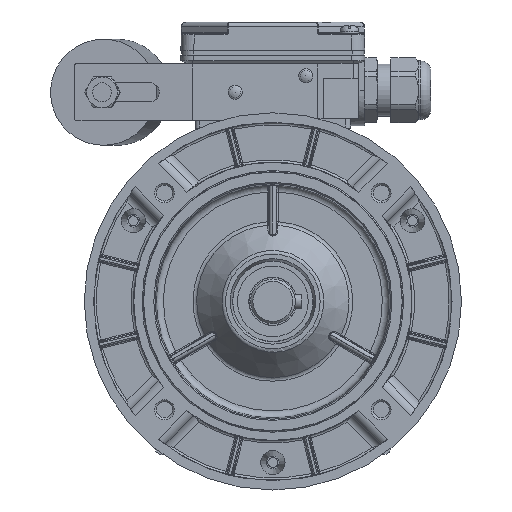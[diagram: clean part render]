
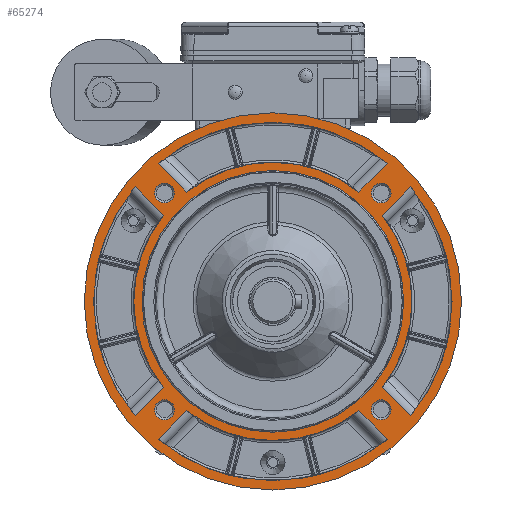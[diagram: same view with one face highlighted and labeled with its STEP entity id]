
A CAD part, left-side view. The second image highlights one B-rep face of the part: STEP entity #65274.
In plain terms, the highlighted planar face has unit normal (-1, 0, 0).
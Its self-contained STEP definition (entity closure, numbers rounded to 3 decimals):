
#3297=LINE('',#96282,#6449);
#3298=LINE('',#96287,#6450);
#3299=LINE('',#96293,#6451);
#3300=LINE('',#96297,#6452);
#3301=LINE('',#96298,#6453);
#3302=LINE('',#96303,#6454);
#3303=LINE('',#96306,#6455);
#3304=LINE('',#96311,#6456);
#6449=VECTOR('',#75695,1000.);
#6450=VECTOR('',#75698,1000.);
#6451=VECTOR('',#75703,1000.);
#6452=VECTOR('',#75706,1000.);
#6453=VECTOR('',#75707,1000.);
#6454=VECTOR('',#75710,1000.);
#6455=VECTOR('',#75713,1000.);
#6456=VECTOR('',#75716,1000.);
#9230=PLANE('',#68662);
#14576=ORIENTED_EDGE('',*,*,#26657,.T.);
#14577=ORIENTED_EDGE('',*,*,#26658,.T.);
#14578=ORIENTED_EDGE('',*,*,#26659,.T.);
#14579=ORIENTED_EDGE('',*,*,#26660,.T.);
#14580=ORIENTED_EDGE('',*,*,#26661,.T.);
#14581=ORIENTED_EDGE('',*,*,#26635,.T.);
#14582=ORIENTED_EDGE('',*,*,#26662,.T.);
#14583=ORIENTED_EDGE('',*,*,#26663,.T.);
#14584=ORIENTED_EDGE('',*,*,#26664,.F.);
#14585=ORIENTED_EDGE('',*,*,#26665,.F.);
#14586=ORIENTED_EDGE('',*,*,#26666,.T.);
#14587=ORIENTED_EDGE('',*,*,#26667,.F.);
#14588=ORIENTED_EDGE('',*,*,#26668,.F.);
#14589=ORIENTED_EDGE('',*,*,#26669,.T.);
#14590=ORIENTED_EDGE('',*,*,#26670,.T.);
#14591=ORIENTED_EDGE('',*,*,#26671,.T.);
#14592=ORIENTED_EDGE('',*,*,#26672,.F.);
#14593=ORIENTED_EDGE('',*,*,#26673,.F.);
#14594=ORIENTED_EDGE('',*,*,#26674,.T.);
#14595=ORIENTED_EDGE('',*,*,#26675,.T.);
#14596=ORIENTED_EDGE('',*,*,#26676,.F.);
#14597=ORIENTED_EDGE('',*,*,#26677,.F.);
#26635=EDGE_CURVE('',#33037,#33037,#36918,.T.);
#26657=EDGE_CURVE('',#33043,#33043,#36934,.F.);
#26658=EDGE_CURVE('',#33044,#33044,#36935,.F.);
#26659=EDGE_CURVE('',#33045,#33045,#36936,.F.);
#26660=EDGE_CURVE('',#33046,#33046,#36937,.F.);
#26661=EDGE_CURVE('',#33047,#33047,#36938,.F.);
#26662=EDGE_CURVE('',#33048,#33049,#3297,.T.);
#26663=EDGE_CURVE('',#33049,#33050,#36939,.T.);
#26664=EDGE_CURVE('',#33051,#33050,#3298,.T.);
#26665=EDGE_CURVE('',#33048,#33051,#36940,.T.);
#26666=EDGE_CURVE('',#33052,#33053,#36941,.T.);
#26667=EDGE_CURVE('',#33054,#33053,#3299,.T.);
#26668=EDGE_CURVE('',#33055,#33054,#36942,.T.);
#26669=EDGE_CURVE('',#33055,#33052,#3300,.T.);
#26670=EDGE_CURVE('',#33056,#33057,#3301,.T.);
#26671=EDGE_CURVE('',#33057,#33058,#36943,.T.);
#26672=EDGE_CURVE('',#33059,#33058,#3302,.T.);
#26673=EDGE_CURVE('',#33056,#33059,#36944,.T.);
#26674=EDGE_CURVE('',#33060,#33061,#3303,.T.);
#26675=EDGE_CURVE('',#33061,#33062,#36945,.T.);
#26676=EDGE_CURVE('',#33063,#33062,#3304,.T.);
#26677=EDGE_CURVE('',#33060,#33063,#36946,.T.);
#33037=VERTEX_POINT('',#96211);
#33043=VERTEX_POINT('',#96273);
#33044=VERTEX_POINT('',#96275);
#33045=VERTEX_POINT('',#96277);
#33046=VERTEX_POINT('',#96279);
#33047=VERTEX_POINT('',#96281);
#33048=VERTEX_POINT('',#96283);
#33049=VERTEX_POINT('',#96284);
#33050=VERTEX_POINT('',#96286);
#33051=VERTEX_POINT('',#96288);
#33052=VERTEX_POINT('',#96291);
#33053=VERTEX_POINT('',#96292);
#33054=VERTEX_POINT('',#96294);
#33055=VERTEX_POINT('',#96296);
#33056=VERTEX_POINT('',#96299);
#33057=VERTEX_POINT('',#96300);
#33058=VERTEX_POINT('',#96302);
#33059=VERTEX_POINT('',#96304);
#33060=VERTEX_POINT('',#96307);
#33061=VERTEX_POINT('',#96308);
#33062=VERTEX_POINT('',#96310);
#33063=VERTEX_POINT('',#96312);
#36918=CIRCLE('',#68625,80.);
#36934=CIRCLE('',#68663,55.5);
#36935=CIRCLE('',#68664,4.2);
#36936=CIRCLE('',#68665,4.2);
#36937=CIRCLE('',#68666,4.2);
#36938=CIRCLE('',#68667,4.2);
#36939=CIRCLE('',#68668,59.);
#36940=CIRCLE('',#68669,76.);
#36941=CIRCLE('',#68670,59.);
#36942=CIRCLE('',#68671,76.);
#36943=CIRCLE('',#68672,59.);
#36944=CIRCLE('',#68673,76.);
#36945=CIRCLE('',#68674,59.);
#36946=CIRCLE('',#68675,76.);
#39387=EDGE_LOOP('',(#14576));
#39388=EDGE_LOOP('',(#14577));
#39389=EDGE_LOOP('',(#14578));
#39390=EDGE_LOOP('',(#14579));
#39391=EDGE_LOOP('',(#14580));
#39392=EDGE_LOOP('',(#14581));
#39393=EDGE_LOOP('',(#14582,#14583,#14584,#14585));
#39394=EDGE_LOOP('',(#14586,#14587,#14588,#14589));
#39395=EDGE_LOOP('',(#14590,#14591,#14592,#14593));
#39396=EDGE_LOOP('',(#14594,#14595,#14596,#14597));
#42608=FACE_BOUND('',#39387,.T.);
#42609=FACE_BOUND('',#39388,.T.);
#42610=FACE_BOUND('',#39389,.T.);
#42611=FACE_BOUND('',#39390,.T.);
#42612=FACE_BOUND('',#39391,.T.);
#42613=FACE_BOUND('',#39392,.T.);
#42614=FACE_BOUND('',#39393,.T.);
#42615=FACE_BOUND('',#39394,.T.);
#42616=FACE_BOUND('',#39395,.T.);
#42617=FACE_BOUND('',#39396,.T.);
#65274=ADVANCED_FACE('',(#42608,#42609,#42610,#42611,#42612,#42613,#42614,
#42615,#42616,#42617),#9230,.T.);
#68625=AXIS2_PLACEMENT_3D('',#96210,#75605,#75606);
#68662=AXIS2_PLACEMENT_3D('',#96271,#75683,#75684);
#68663=AXIS2_PLACEMENT_3D('',#96272,#75685,#75686);
#68664=AXIS2_PLACEMENT_3D('',#96274,#75687,#75688);
#68665=AXIS2_PLACEMENT_3D('',#96276,#75689,#75690);
#68666=AXIS2_PLACEMENT_3D('',#96278,#75691,#75692);
#68667=AXIS2_PLACEMENT_3D('',#96280,#75693,#75694);
#68668=AXIS2_PLACEMENT_3D('',#96285,#75696,#75697);
#68669=AXIS2_PLACEMENT_3D('',#96289,#75699,#75700);
#68670=AXIS2_PLACEMENT_3D('',#96290,#75701,#75702);
#68671=AXIS2_PLACEMENT_3D('',#96295,#75704,#75705);
#68672=AXIS2_PLACEMENT_3D('',#96301,#75708,#75709);
#68673=AXIS2_PLACEMENT_3D('',#96305,#75711,#75712);
#68674=AXIS2_PLACEMENT_3D('',#96309,#75714,#75715);
#68675=AXIS2_PLACEMENT_3D('',#96313,#75717,#75718);
#75605=DIRECTION('',(-1.,0.,0.));
#75606=DIRECTION('',(0.,1.,0.));
#75683=DIRECTION('',(-1.,0.,0.));
#75684=DIRECTION('',(0.,-1.,0.));
#75685=DIRECTION('',(-1.,0.,0.));
#75686=DIRECTION('',(0.,-1.,0.));
#75687=DIRECTION('',(-1.,0.,0.));
#75688=DIRECTION('',(0.,-1.,0.));
#75689=DIRECTION('',(-1.,0.,0.));
#75690=DIRECTION('',(0.,-1.,0.));
#75691=DIRECTION('',(-1.,0.,0.));
#75692=DIRECTION('',(0.,-1.,0.));
#75693=DIRECTION('',(-1.,0.,0.));
#75694=DIRECTION('',(0.,-1.,0.));
#75695=DIRECTION('',(0.,0.707,0.707));
#75696=DIRECTION('',(-1.,0.,0.));
#75697=DIRECTION('',(0.,0.,1.));
#75698=DIRECTION('',(0.,0.707,-0.707));
#75699=DIRECTION('',(-1.,0.,0.));
#75700=DIRECTION('',(0.,0.,1.));
#75701=DIRECTION('',(-1.,0.,0.));
#75702=DIRECTION('',(0.,0.,1.));
#75703=DIRECTION('',(0.,0.707,0.707));
#75704=DIRECTION('',(-1.,0.,0.));
#75705=DIRECTION('',(0.,0.,1.));
#75706=DIRECTION('',(0.,-0.707,0.707));
#75707=DIRECTION('',(0.,0.707,-0.707));
#75708=DIRECTION('',(-1.,0.,0.));
#75709=DIRECTION('',(0.,0.,1.));
#75710=DIRECTION('',(0.,-0.707,-0.707));
#75711=DIRECTION('',(-1.,0.,0.));
#75712=DIRECTION('',(0.,0.,1.));
#75713=DIRECTION('',(0.,-0.707,-0.707));
#75714=DIRECTION('',(-1.,0.,0.));
#75715=DIRECTION('',(0.,0.,1.));
#75716=DIRECTION('',(0.,-0.707,0.707));
#75717=DIRECTION('',(-1.,0.,0.));
#75718=DIRECTION('',(0.,0.,1.));
#96210=CARTESIAN_POINT('',(-44.8,0.,0.));
#96211=CARTESIAN_POINT('',(-44.8,80.,0.));
#96271=CARTESIAN_POINT('',(-44.8,0.,0.));
#96272=CARTESIAN_POINT('',(-44.8,0.,0.));
#96273=CARTESIAN_POINT('',(-44.8,-55.5,0.));
#96274=CARTESIAN_POINT('',(-44.8,-45.962,-45.962));
#96275=CARTESIAN_POINT('',(-44.8,-50.162,-45.962));
#96276=CARTESIAN_POINT('',(-44.8,-45.962,45.962));
#96277=CARTESIAN_POINT('',(-44.8,-50.162,45.962));
#96278=CARTESIAN_POINT('',(-44.8,45.962,45.962));
#96279=CARTESIAN_POINT('',(-44.8,41.762,45.962));
#96280=CARTESIAN_POINT('',(-44.8,45.962,-45.962));
#96281=CARTESIAN_POINT('',(-44.8,41.762,-45.962));
#96282=CARTESIAN_POINT('',(-44.8,-70.057,-60.157));
#96283=CARTESIAN_POINT('',(-44.8,-58.461,-48.562));
#96284=CARTESIAN_POINT('',(-44.8,-46.374,-36.475));
#96285=CARTESIAN_POINT('',(-44.8,0.,0.));
#96286=CARTESIAN_POINT('',(-44.8,-46.374,36.475));
#96287=CARTESIAN_POINT('',(-44.8,-70.057,60.157));
#96288=CARTESIAN_POINT('',(-44.8,-58.461,48.562));
#96289=CARTESIAN_POINT('',(-44.8,0.,0.));
#96290=CARTESIAN_POINT('',(-44.8,0.,0.));
#96291=CARTESIAN_POINT('',(-44.8,36.475,-46.374));
#96292=CARTESIAN_POINT('',(-44.8,-36.475,-46.374));
#96293=CARTESIAN_POINT('',(-44.8,-60.157,-70.057));
#96294=CARTESIAN_POINT('',(-44.8,-48.562,-58.461));
#96295=CARTESIAN_POINT('',(-44.8,0.,0.));
#96296=CARTESIAN_POINT('',(-44.8,48.562,-58.461));
#96297=CARTESIAN_POINT('',(-44.8,60.157,-70.057));
#96298=CARTESIAN_POINT('',(-44.8,-60.157,70.057));
#96299=CARTESIAN_POINT('',(-44.8,-48.562,58.461));
#96300=CARTESIAN_POINT('',(-44.8,-36.475,46.374));
#96301=CARTESIAN_POINT('',(-44.8,0.,0.));
#96302=CARTESIAN_POINT('',(-44.8,36.475,46.374));
#96303=CARTESIAN_POINT('',(-44.8,60.157,70.057));
#96304=CARTESIAN_POINT('',(-44.8,48.562,58.461));
#96305=CARTESIAN_POINT('',(-44.8,0.,0.));
#96306=CARTESIAN_POINT('',(-44.8,70.057,60.157));
#96307=CARTESIAN_POINT('',(-44.8,58.461,48.562));
#96308=CARTESIAN_POINT('',(-44.8,46.374,36.475));
#96309=CARTESIAN_POINT('',(-44.8,0.,0.));
#96310=CARTESIAN_POINT('',(-44.8,46.374,-36.475));
#96311=CARTESIAN_POINT('',(-44.8,70.057,-60.157));
#96312=CARTESIAN_POINT('',(-44.8,58.461,-48.562));
#96313=CARTESIAN_POINT('',(-44.8,0.,0.));
